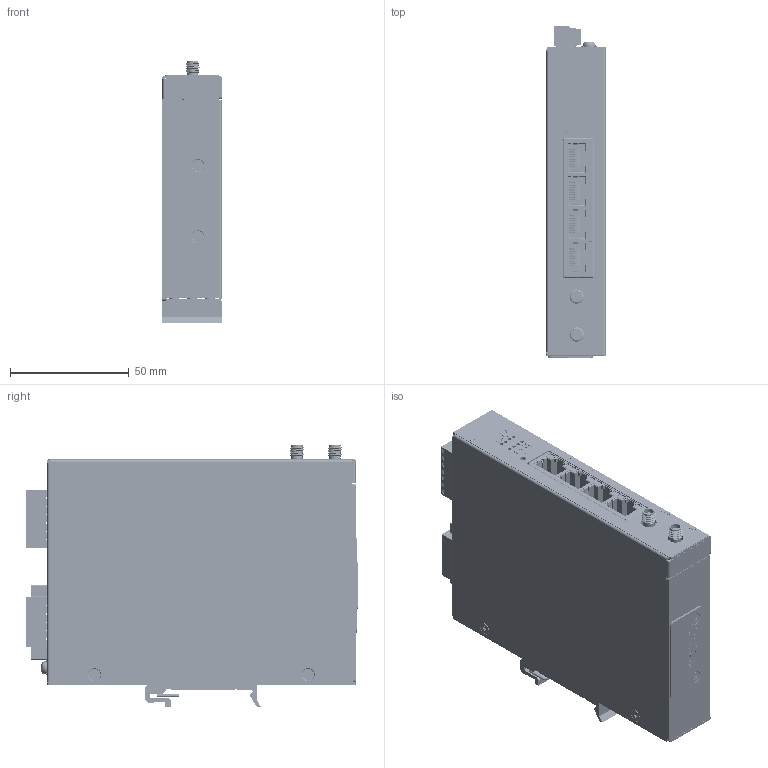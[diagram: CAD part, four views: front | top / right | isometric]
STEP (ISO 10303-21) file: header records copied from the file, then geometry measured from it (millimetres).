
FILE_DESCRIPTION (( 'STEP AP214' ), '1' );
FILE_NAME ('ICR-26xx_DIN_holder.STEP', '2024-10-04T10:28:24', ( '' ), ( '' ), 'SwSTEP 2.0', 'SolidWorks 2024', '' );
FILE_SCHEMA (( 'AUTOMOTIVE_DESIGN' ));
Length unit declared in the file: millimetre
Products named in the file (28): Plate_for_SIM_ICR-2(0,4,5,6)xx; Plug-In_Block_1x7P; Terminal_Block_1x7P; Cover_for_ICR_26xx; SIM7155-6-1-14-A_PART1; SCR_BK_M3_L5_PH_FL_TW_GLUE; SMA_5P_Connector; Chassis_for_ICR-26xx; VMC-2022-04-1_Label - Insert SIM carefully_B; Plug-In_Block_1x6P; PUSH_SW_3P; RJ45_1x4_8p_Connector; SCR_BK_M3_L5_PH_FL_TW; Micro_SIM_ card_Connector; SCR_ZC_M3_L6_PH_PW; VMC-2022-04-1_Label - Insert SIM carefully; LED_HOLDER_GGGG; Pin_Header_5x2P; ICR-2600_FRONT_Label; BTB_20P_Connector; DIN_25_AL; PCB_ICR-25(6)xx; ICR-26xx_DIN_holder; B-ICR26xx A103-1; SIM7155-6-1-14-A_PART2; Terminal_Block_1x6P; SCR_ZC_M3_L6_PH_PW_2; VMC-2022-04-1_Label - Insert SIM carefully_A
Assembly tree (40 placements, depth 4):
  ICR-26xx_DIN_holder
    B-ICR26xx A103-1
      PCB_ICR-25(6)xx
      Micro_SIM_ card_Connector  x2
        SIM7155-6-1-14-A_PART1
        SIM7155-6-1-14-A_PART2
      SMA_5P_Connector  x2
      Terminal_Block_1x6P
      Terminal_Block_1x7P
      LED_HOLDER_GGGG  x2
      PUSH_SW_3P
      BTB_20P_Connector
      Pin_Header_5x2P
      RJ45_1x4_8p_Connector
    Chassis_for_ICR-26xx
    Cover_for_ICR_26xx
    Plate_for_SIM_ICR-2(0,4,5,6)xx
    Plug-In_Block_1x6P
    Plug-In_Block_1x7P
    ICR-2600_FRONT_Label
    VMC-2022-04-1_Label - Insert SIM carefully
      VMC-2022-04-1_Label - Insert SIM carefully_A
      VMC-2022-04-1_Label - Insert SIM carefully_B
    SCR_BK_M3_L5_PH_FL_TW  x5
    SCR_BK_M3_L5_PH_FL_TW_GLUE  x4
    SCR_ZC_M3_L6_PH_PW_2
    SCR_ZC_M3_L6_PH_PW  x4
    DIN_25_AL
Bounding box: 25 x 139.9 x 110.35 mm (x, y, z)
Volume: 70557.4 mm3; surface area: 147140.5 mm2
Topology: 245 solids, 255 shells, 18201 faces, 48780 edges, 31165 vertices
Faces by surface type: plane 13244, cylinder 3204, bspline 1046, cone 367, sphere 212, torus 128
Entity records: 709487 total; most frequent: CARTESIAN_POINT 152383, ORIENTED_EDGE 86928, DIRECTION 77726, EDGE_CURVE 43467, LINE 35386, VECTOR 35386, VERTEX_POINT 27807, AXIS2_PLACEMENT_3D 21170
